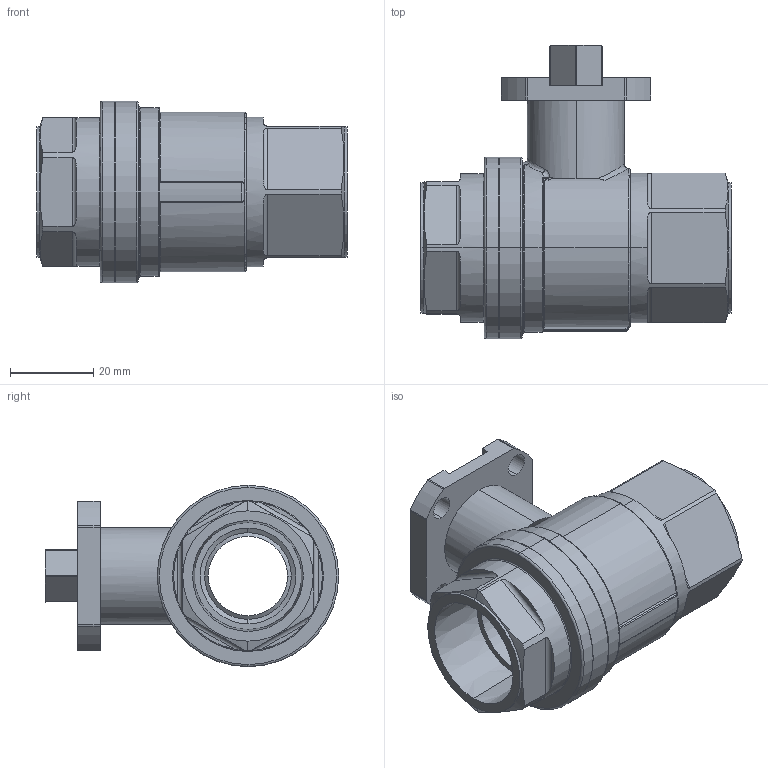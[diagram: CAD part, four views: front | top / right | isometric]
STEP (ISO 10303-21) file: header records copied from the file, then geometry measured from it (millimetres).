
FILE_DESCRIPTION (( 'STEP AP203' ), '1' );
FILE_NAME ('b2f-6.STEP', '2018-02-20T16:30:41', ( '' ), ( '' ), 'SwSTEP 2.0', 'SolidWorks 2017', '' );
FILE_SCHEMA (( 'CONFIG_CONTROL_DESIGN' ));
Length unit declared in the file: inch
Products named in the file (1): b2f-6
Bounding box: 74.68 x 70.6 x 43.66 mm (x, y, z)
Volume: 61926.3 mm3; surface area: 22519.2 mm2
Topology: 1 solids, 1 shells, 197 faces, 514 edges, 322 vertices
Faces by surface type: cylinder 78, plane 62, torus 20, bspline 17, cone 12, sphere 8
Entity records: 7318 total; most frequent: CARTESIAN_POINT 2432, DIRECTION 1024, ORIENTED_EDGE 1020, EDGE_CURVE 510, AXIS2_PLACEMENT_3D 420, VERTEX_POINT 322, CIRCLE 239, EDGE_LOOP 218
